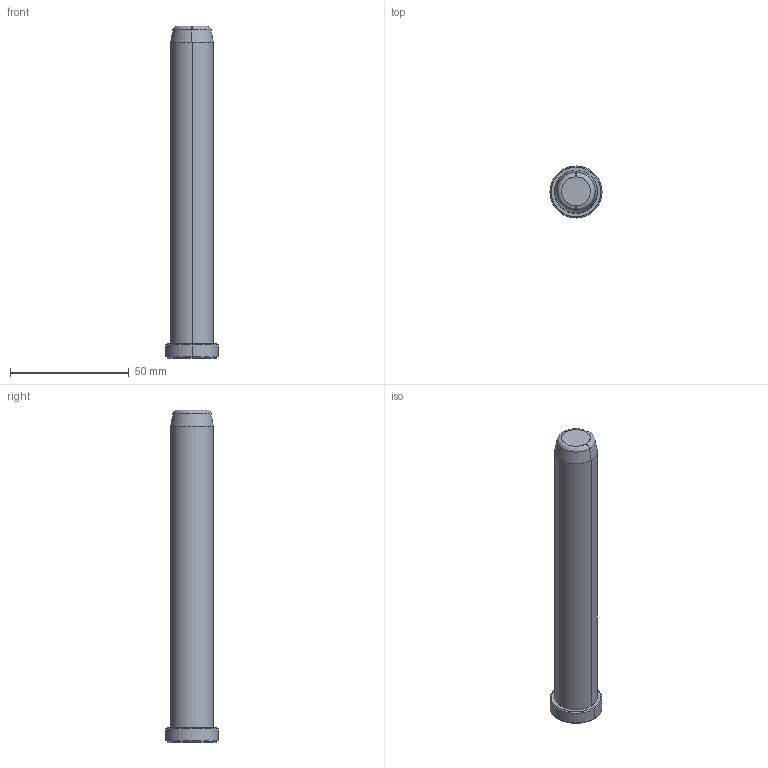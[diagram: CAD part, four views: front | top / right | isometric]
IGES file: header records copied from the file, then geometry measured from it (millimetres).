
Start section: START RECORD GO HERE.
Global section: file name: B81818140.igs; native system: DASSAULT SYSTEMES CATIA V5 R20 - www.3ds.com; preprocessor: CATIA Version 5 Release 20 ; author: Utente; organization: NB04-ASUS; date: 20200419.172314; units: millimetre
Bounding box: 22 x 22 x 140 mm (x, y, z)
Surface area: 8596 mm2 (no closed solid volume)
Topology: 0 solids, 0 shells, 17 faces, 68 edges, 68 vertices
Faces by surface type: revolution 14, plane 3
